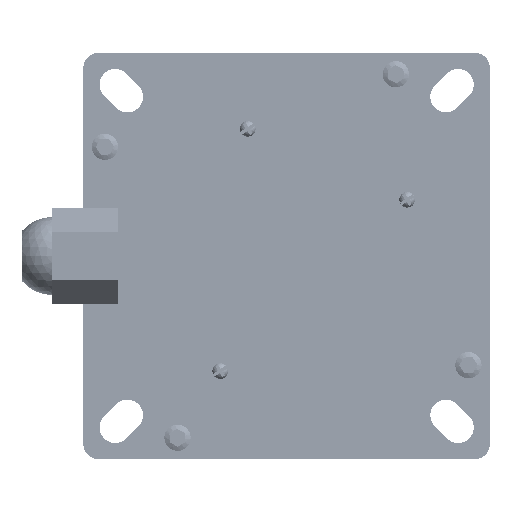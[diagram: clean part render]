
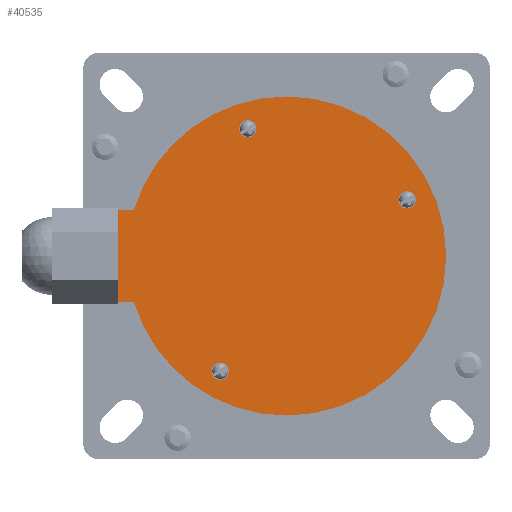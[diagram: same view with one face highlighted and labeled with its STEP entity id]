
A CAD part, front view. The second image highlights one B-rep face of the part: STEP entity #40535.
In plain terms, the highlighted planar face has unit normal (0, -1, 0) as drawn and (0, 1, 0) by its records, which use the part's own axes.
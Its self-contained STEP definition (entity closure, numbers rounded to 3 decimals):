
#252 = FACE_OUTER_BOUND ( 'NONE', #7871, .T. ) ;
#373 = EDGE_LOOP ( 'NONE', ( #21954, #35390 ) ) ;
#576 = CIRCLE ( 'NONE', #9193, 2.75 ) ;
#822 = CIRCLE ( 'NONE', #15416, 51. ) ;
#1837 = ORIENTED_EDGE ( 'NONE', *, *, #29228, .T. ) ;
#2182 = LINE ( 'NONE', #40945, #31296 ) ;
#2205 = AXIS2_PLACEMENT_3D ( 'NONE', #16025, #2731, #15414 ) ;
#2340 = ORIENTED_EDGE ( 'NONE', *, *, #15350, .F. ) ;
#2355 = AXIS2_PLACEMENT_3D ( 'NONE', #9445, #37634, #12784 ) ;
#2545 = VECTOR ( 'NONE', #30961, 1000. ) ;
#2705 = DIRECTION ( 'NONE',  ( 0., 1., 0. ) ) ;
#2731 = DIRECTION ( 'NONE',  ( 0., 1., 0. ) ) ;
#2781 = CARTESIAN_POINT ( 'NONE',  ( 0., 30., 0. ) ) ;
#2833 = ORIENTED_EDGE ( 'NONE', *, *, #33754, .F. ) ;
#2887 = EDGE_LOOP ( 'NONE', ( #2340, #15816 ) ) ;
#2944 = FACE_BOUND ( 'NONE', #373, .T. ) ;
#3016 = CIRCLE ( 'NONE', #2355, 2.75 ) ;
#3356 = PLANE ( 'NONE',  #2205 ) ;
#3746 = DIRECTION ( 'NONE',  ( 0., 1., 0. ) ) ;
#3879 = EDGE_CURVE ( 'NONE', #21233, #13070, #3016, .T. ) ;
#4093 = CARTESIAN_POINT ( 'NONE',  ( -21.25, 30., 39.556 ) ) ;
#4432 = CARTESIAN_POINT ( 'NONE',  ( -53.999, 30., 0. ) ) ;
#4595 = AXIS2_PLACEMENT_3D ( 'NONE', #16207, #3746, #31718 ) ;
#5106 = AXIS2_PLACEMENT_3D ( 'NONE', #12645, #15346, #37288 ) ;
#5477 = EDGE_CURVE ( 'NONE', #35537, #35976, #5669, .T. ) ;
#5518 = VERTEX_POINT ( 'NONE', #24358 ) ;
#5669 = LINE ( 'NONE', #36975, #2545 ) ;
#5789 = EDGE_LOOP ( 'NONE', ( #39635, #2833 ) ) ;
#6092 = DIRECTION ( 'NONE',  ( 0., 0., 1. ) ) ;
#6386 = CARTESIAN_POINT ( 'NONE',  ( -48.82, 30., 14.75 ) ) ;
#6562 = CARTESIAN_POINT ( 'NONE',  ( -12.426, 30., -40.643 ) ) ;
#7130 = VERTEX_POINT ( 'NONE', #34482 ) ;
#7249 = VERTEX_POINT ( 'NONE', #4093 ) ;
#7581 = DIRECTION ( 'NONE',  ( 0., 0., 1. ) ) ;
#7871 = EDGE_LOOP ( 'NONE', ( #8392, #32914, #1837, #39056, #39225, #26405 ) ) ;
#8148 = LINE ( 'NONE', #4432, #8781 ) ;
#8392 = ORIENTED_EDGE ( 'NONE', *, *, #5477, .F. ) ;
#8411 = CARTESIAN_POINT ( 'NONE',  ( 38.518, 30., -17.961 ) ) ;
#8781 = VECTOR ( 'NONE', #21024, 1000. ) ;
#9039 = DIRECTION ( 'NONE',  ( 0., 1., 0. ) ) ;
#9193 = AXIS2_PLACEMENT_3D ( 'NONE', #12287, #2705, #15792 ) ;
#9445 = CARTESIAN_POINT ( 'NONE',  ( 38.518, 30., -17.961 ) ) ;
#9523 = EDGE_CURVE ( 'NONE', #34097, #7130, #822, .T. ) ;
#11451 = EDGE_CURVE ( 'NONE', #14487, #34097, #23289, .T. ) ;
#11524 = CARTESIAN_POINT ( 'NONE',  ( 0., 30., 0. ) ) ;
#11828 = CARTESIAN_POINT ( 'NONE',  ( -21.25, 30., 34.056 ) ) ;
#12287 = CARTESIAN_POINT ( 'NONE',  ( -21.25, 30., 36.806 ) ) ;
#12373 = CARTESIAN_POINT ( 'NONE',  ( -53.999, 30., -14.75 ) ) ;
#12645 = CARTESIAN_POINT ( 'NONE',  ( -21.25, 30., 36.806 ) ) ;
#12784 = DIRECTION ( 'NONE',  ( 0., 0., 1. ) ) ;
#13070 = VERTEX_POINT ( 'NONE', #38097 ) ;
#13089 = CARTESIAN_POINT ( 'NONE',  ( -48.82, 30., -14.75 ) ) ;
#13628 = DIRECTION ( 'NONE',  ( 0., 0., 1. ) ) ;
#14052 = CARTESIAN_POINT ( 'NONE',  ( 0., 30., 51. ) ) ;
#14487 = VERTEX_POINT ( 'NONE', #6386 ) ;
#15110 = EDGE_CURVE ( 'NONE', #7249, #15707, #576, .T. ) ;
#15346 = DIRECTION ( 'NONE',  ( 0., 1., 0. ) ) ;
#15350 = EDGE_CURVE ( 'NONE', #28273, #5518, #37680, .T. ) ;
#15414 = DIRECTION ( 'NONE',  ( 0., 0., 1. ) ) ;
#15416 = AXIS2_PLACEMENT_3D ( 'NONE', #2781, #23607, #40723 ) ;
#15707 = VERTEX_POINT ( 'NONE', #11828 ) ;
#15792 = DIRECTION ( 'NONE',  ( 0., 0., 1. ) ) ;
#15816 = ORIENTED_EDGE ( 'NONE', *, *, #19874, .F. ) ;
#16010 = AXIS2_PLACEMENT_3D ( 'NONE', #34320, #9039, #28113 ) ;
#16025 = CARTESIAN_POINT ( 'NONE',  ( 0., 30., 0. ) ) ;
#16207 = CARTESIAN_POINT ( 'NONE',  ( -12.426, 30., -40.643 ) ) ;
#18096 = EDGE_CURVE ( 'NONE', #7130, #35976, #32872, .T. ) ;
#19714 = CIRCLE ( 'NONE', #38221, 2.75 ) ;
#19852 = CARTESIAN_POINT ( 'NONE',  ( 38.518, 30., -20.711 ) ) ;
#19874 = EDGE_CURVE ( 'NONE', #5518, #28273, #19714, .T. ) ;
#21024 = DIRECTION ( 'NONE',  ( 0., 0., 1. ) ) ;
#21233 = VERTEX_POINT ( 'NONE', #19852 ) ;
#21404 = EDGE_CURVE ( 'NONE', #13070, #21233, #39030, .T. ) ;
#21954 = ORIENTED_EDGE ( 'NONE', *, *, #21404, .F. ) ;
#23289 = CIRCLE ( 'NONE', #16010, 51. ) ;
#23607 = DIRECTION ( 'NONE',  ( 0., 1., 0. ) ) ;
#24128 = EDGE_CURVE ( 'NONE', #35537, #39069, #8148, .T. ) ;
#24358 = CARTESIAN_POINT ( 'NONE',  ( -12.426, 30., -43.393 ) ) ;
#24985 = AXIS2_PLACEMENT_3D ( 'NONE', #11524, #37609, #6092 ) ;
#26405 = ORIENTED_EDGE ( 'NONE', *, *, #18096, .T. ) ;
#26875 = DIRECTION ( 'NONE',  ( 0., 1., 0. ) ) ;
#28113 = DIRECTION ( 'NONE',  ( 0., 0., 1. ) ) ;
#28273 = VERTEX_POINT ( 'NONE', #32618 ) ;
#29228 = EDGE_CURVE ( 'NONE', #39069, #14487, #2182, .T. ) ;
#30961 = DIRECTION ( 'NONE',  ( 1., 0., 0. ) ) ;
#31002 = DIRECTION ( 'NONE',  ( 1., 0., 0. ) ) ;
#31296 = VECTOR ( 'NONE', #31002, 1000. ) ;
#31718 = DIRECTION ( 'NONE',  ( 0., 0., 1. ) ) ;
#31746 = FACE_BOUND ( 'NONE', #2887, .T. ) ;
#32260 = DIRECTION ( 'NONE',  ( 0., 1., 0. ) ) ;
#32618 = CARTESIAN_POINT ( 'NONE',  ( -12.426, 30., -37.893 ) ) ;
#32872 = CIRCLE ( 'NONE', #24985, 51. ) ;
#32914 = ORIENTED_EDGE ( 'NONE', *, *, #24128, .T. ) ;
#33079 = AXIS2_PLACEMENT_3D ( 'NONE', #8411, #26875, #7581 ) ;
#33754 = EDGE_CURVE ( 'NONE', #15707, #7249, #34877, .T. ) ;
#34097 = VERTEX_POINT ( 'NONE', #14052 ) ;
#34320 = CARTESIAN_POINT ( 'NONE',  ( 0., 30., 0. ) ) ;
#34482 = CARTESIAN_POINT ( 'NONE',  ( 0., 30., -51. ) ) ;
#34865 = FACE_BOUND ( 'NONE', #5789, .T. ) ;
#34877 = CIRCLE ( 'NONE', #5106, 2.75 ) ;
#35390 = ORIENTED_EDGE ( 'NONE', *, *, #3879, .F. ) ;
#35537 = VERTEX_POINT ( 'NONE', #12373 ) ;
#35976 = VERTEX_POINT ( 'NONE', #13089 ) ;
#36975 = CARTESIAN_POINT ( 'NONE',  ( 0., 30., -14.75 ) ) ;
#37288 = DIRECTION ( 'NONE',  ( 0., 0., 1. ) ) ;
#37609 = DIRECTION ( 'NONE',  ( 0., 1., 0. ) ) ;
#37634 = DIRECTION ( 'NONE',  ( 0., 1., 0. ) ) ;
#37680 = CIRCLE ( 'NONE', #4595, 2.75 ) ;
#38097 = CARTESIAN_POINT ( 'NONE',  ( 38.518, 30., -15.211 ) ) ;
#38221 = AXIS2_PLACEMENT_3D ( 'NONE', #6562, #32260, #13628 ) ;
#39030 = CIRCLE ( 'NONE', #33079, 2.75 ) ;
#39056 = ORIENTED_EDGE ( 'NONE', *, *, #11451, .T. ) ;
#39069 = VERTEX_POINT ( 'NONE', #40460 ) ;
#39225 = ORIENTED_EDGE ( 'NONE', *, *, #9523, .T. ) ;
#39635 = ORIENTED_EDGE ( 'NONE', *, *, #15110, .F. ) ;
#40460 = CARTESIAN_POINT ( 'NONE',  ( -53.999, 30., 14.75 ) ) ;
#40535 = ADVANCED_FACE ( 'NONE', ( #34865, #2944, #31746, #252 ), #3356, .T. ) ;
#40723 = DIRECTION ( 'NONE',  ( 0., 0., 1. ) ) ;
#40945 = CARTESIAN_POINT ( 'NONE',  ( 0., 30., 14.75 ) ) ;
